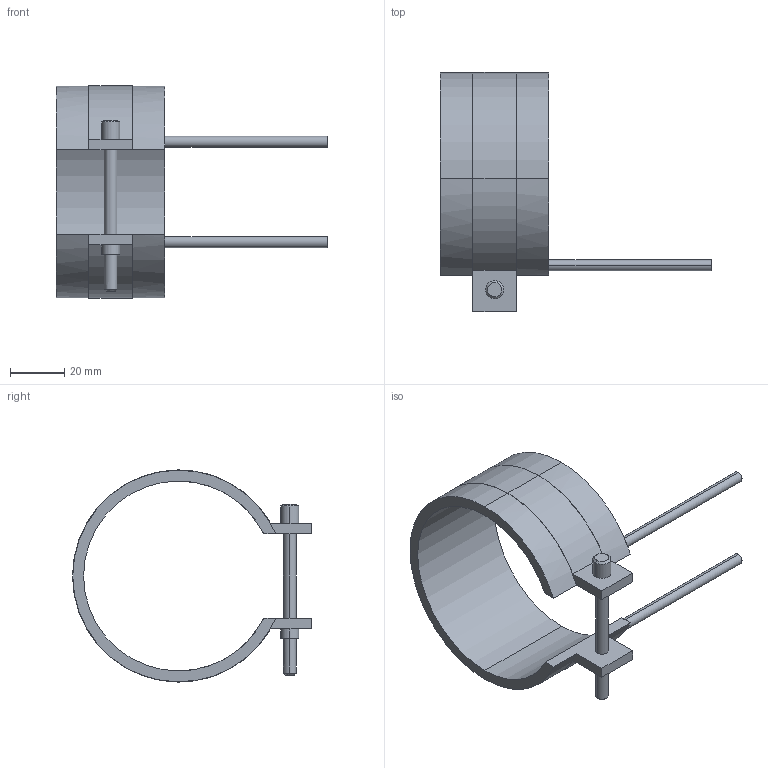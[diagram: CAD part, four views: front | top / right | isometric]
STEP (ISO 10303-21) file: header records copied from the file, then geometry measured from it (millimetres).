
FILE_DESCRIPTION(('CATIA V5 STEP Exchange'),'2;1');
FILE_NAME('C:\Users\Utente\Desktop\IO LAVORO\3D X SITO CF\X SITO\PLASTICA\RF2\14070040.stp','2021-04-01T09:46:45+00:00',('none'),('none'),'CATIA Version 5 Release 20 GA (IN-10)','CATIA V5 STEP AP203','none');
FILE_SCHEMA(('CONFIG_CONTROL_DESIGN'));
Length unit declared in the file: millimetre
Products named in the file (1): 14070040
Bounding box: 100 x 88.1 x 78.2 mm (x, y, z)
Volume: 36846.7 mm3; surface area: 21493.9 mm2
Topology: 1 solids, 1 shells, 45 faces, 116 edges, 76 vertices
Faces by surface type: cylinder 24, plane 17, cone 4
Entity records: 1412 total; most frequent: CARTESIAN_POINT 288, ORIENTED_EDGE 232, DIRECTION 195, EDGE_CURVE 116, AXIS2_PLACEMENT_3D 103, VERTEX_POINT 76, CIRCLE 61, VECTOR 52
